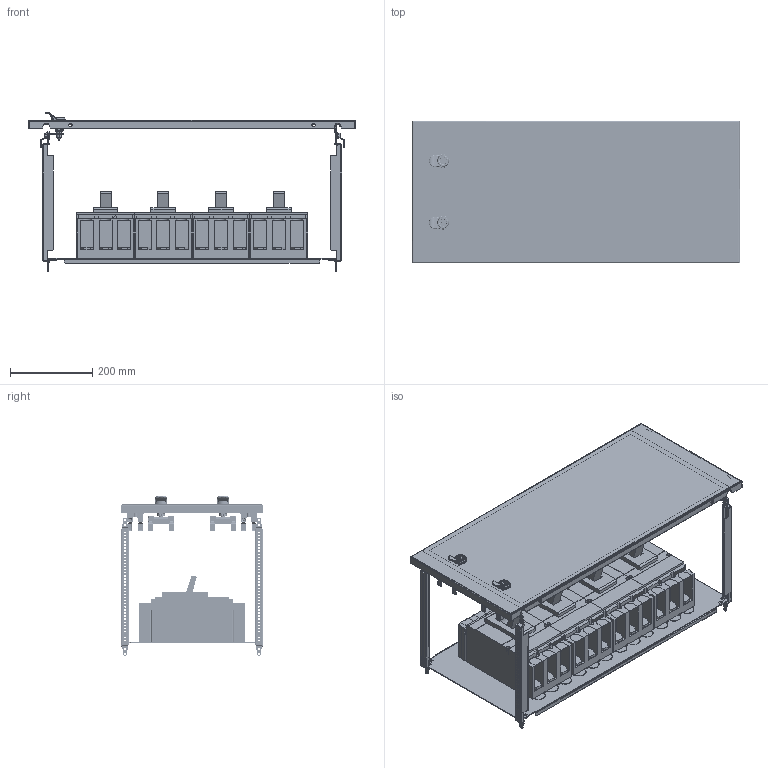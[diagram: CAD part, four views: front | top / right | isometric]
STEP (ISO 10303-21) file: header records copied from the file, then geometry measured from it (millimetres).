
FILE_DESCRIPTION(('CAx-IF Rec.Pracs.---Model Styling and Organization---1.2---2011-12-15','CAx-IF Rec.Pracs.---Geometric and Assembly Validation Properties---4.1---2014-06-16','CAx-IF Rec.Pracs.---PMI Polyline Presentation---2.0---2013-05-24'),'2;1');
FILE_NAME('R5PKEB7V82116 (F).stp','2021-07-29T02:54:04+03:00',(''),(''),'STEP Interface 4.4 by CT CoreTechnologie','3D_Evolution4.4 by CT CoreTechnologie','');
FILE_SCHEMA(('AUTOMOTIVE_DESIGN { 1 0 10303 214 1 1 1 1 }'));
Length unit declared in the file: millimetre
Products named in the file (1): R5PKEB7V82116 (F)
Bounding box: 794 x 345 x 386.89 mm (x, y, z)
Surface area: 2357621.2 mm2 (no closed solid volume)
Topology: 0 solids, 113 shells, 4710 faces, 12909 edges, 8449 vertices
Faces by surface type: plane 2274, cylinder 1475, bspline 961
Entity records: 166015 total; most frequent: CARTESIAN_POINT 46376, ORIENTED_EDGE 25590, DIRECTION 24203, EDGE_CURVE 12819, VERTEX_POINT 8457, AXIS2_PLACEMENT_3D 8090, VECTOR 8023, LINE 8023
